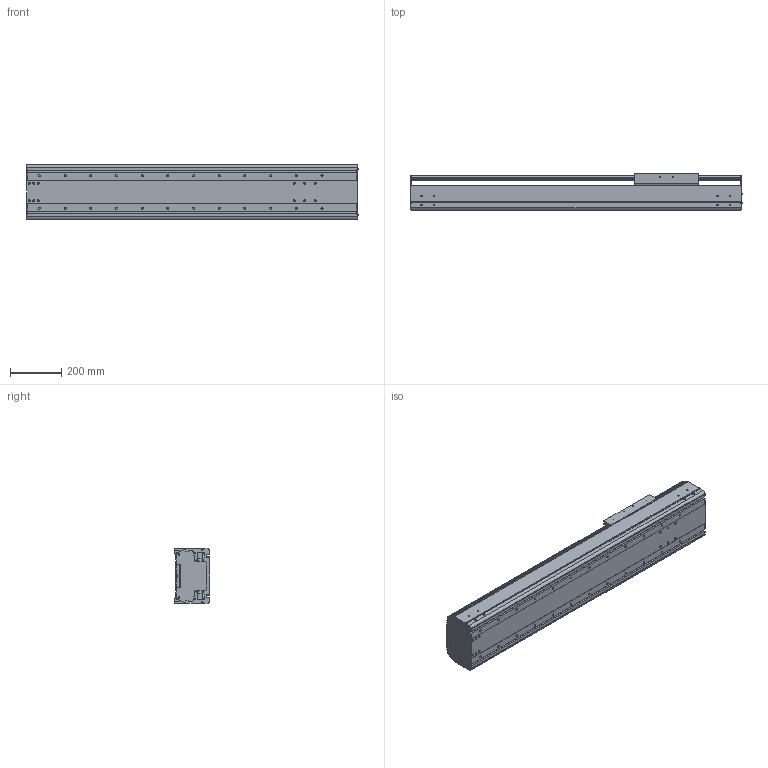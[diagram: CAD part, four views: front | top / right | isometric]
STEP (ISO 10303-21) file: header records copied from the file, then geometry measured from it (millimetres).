
FILE_DESCRIPTION((''),'2;1');
FILE_NAME('BE60J-ST-M_N-80_IGS_PRT','2017-06-18T',(' '),(''),'PRO/ENGINEER BY PARAMETRIC TECHNOLOGY CORPORATION, 2015030','PRO/ENGINEER BY PARAMETRIC TECHNOLOGY CORPORATION, 2015030','');
FILE_SCHEMA(('CONFIG_CONTROL_DESIGN'));
Length unit declared in the file: millimetre
Products named in the file (1): BE60J-ST-M_N-80_IGS_PRT
Bounding box: 1292.4 x 140 x 214 mm (x, y, z)
Volume: 10097746.2 mm3; surface area: 2772535.7 mm2
Topology: 2 solids, 108 shells, 1395 faces, 3898 edges, 2592 vertices
Faces by surface type: cylinder 706, plane 589, cone 52, sphere 24, torus 24
Entity records: 46813 total; most frequent: CARTESIAN_POINT 10406, DIRECTION 7620, ORIENTED_EDGE 7284, EDGE_CURVE 3850, AXIS2_PLACEMENT_3D 2820, VERTEX_POINT 2592, VECTOR 1980, LINE 1980
